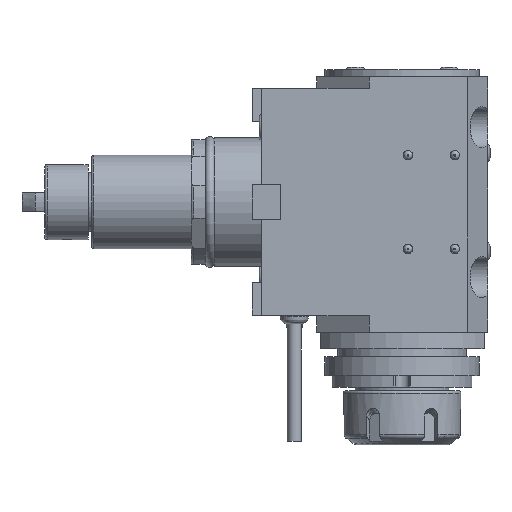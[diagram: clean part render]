
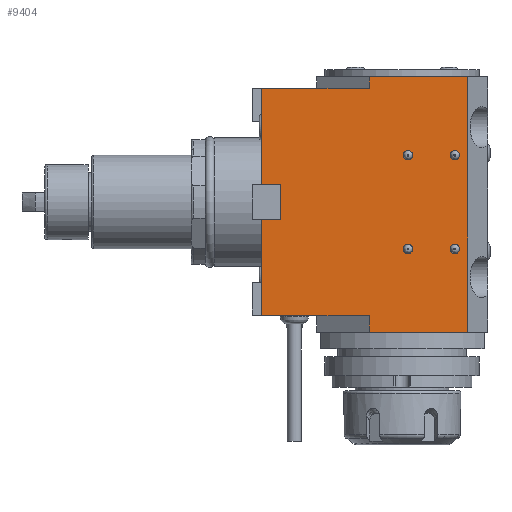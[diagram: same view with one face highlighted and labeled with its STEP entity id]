
A CAD part, left-side view. The second image highlights one B-rep face of the part: STEP entity #9404.
In plain terms, the highlighted planar face has unit normal (-1, 0, 0) as drawn and (1, 0, 0) by its records, which use the part's own axes.
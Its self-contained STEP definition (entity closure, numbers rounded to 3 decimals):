
#381=FACE_BOUND('',#3176,.T.);
#382=FACE_BOUND('',#3177,.T.);
#383=FACE_BOUND('',#3178,.T.);
#384=FACE_BOUND('',#3179,.T.);
#614=LINE('',#13920,#1484);
#619=LINE('',#13951,#1489);
#630=LINE('',#13974,#1500);
#633=LINE('',#13980,#1503);
#637=LINE('',#13989,#1507);
#638=LINE('',#13991,#1508);
#639=LINE('',#13993,#1509);
#640=LINE('',#13995,#1510);
#641=LINE('',#13996,#1511);
#642=LINE('',#13998,#1512);
#643=LINE('',#14000,#1513);
#644=LINE('',#14001,#1514);
#1484=VECTOR('',#11130,10.);
#1489=VECTOR('',#11163,10.);
#1500=VECTOR('',#11180,10.);
#1503=VECTOR('',#11185,10.);
#1507=VECTOR('',#11193,10.);
#1508=VECTOR('',#11194,10.);
#1509=VECTOR('',#11195,10.);
#1510=VECTOR('',#11196,10.);
#1511=VECTOR('',#11197,10.);
#1512=VECTOR('',#11198,10.);
#1513=VECTOR('',#11199,10.);
#1514=VECTOR('',#11200,10.);
#2263=PLANE('',#10112);
#2626=FACE_OUTER_BOUND('',#3175,.T.);
#3175=EDGE_LOOP('',(#6611,#6612,#6613,#6614,#6615,#6616,#6617,#6618,#6619,
#6620,#6621,#6622));
#3176=EDGE_LOOP('',(#6623));
#3177=EDGE_LOOP('',(#6624));
#3178=EDGE_LOOP('',(#6625));
#3179=EDGE_LOOP('',(#6626));
#3773=CIRCLE('',#10113,2.);
#3774=CIRCLE('',#10114,2.);
#3775=CIRCLE('',#10115,2.);
#3776=CIRCLE('',#10116,2.);
#4159=VERTEX_POINT('',#13917);
#4160=VERTEX_POINT('',#13919);
#4170=VERTEX_POINT('',#13945);
#4172=VERTEX_POINT('',#13949);
#4181=VERTEX_POINT('',#13972);
#4183=VERTEX_POINT('',#13979);
#4186=VERTEX_POINT('',#13988);
#4187=VERTEX_POINT('',#13990);
#4188=VERTEX_POINT('',#13992);
#4189=VERTEX_POINT('',#13994);
#4190=VERTEX_POINT('',#13997);
#4191=VERTEX_POINT('',#13999);
#4192=VERTEX_POINT('',#14002);
#4193=VERTEX_POINT('',#14004);
#4194=VERTEX_POINT('',#14006);
#4195=VERTEX_POINT('',#14008);
#5097=EDGE_CURVE('',#4160,#4159,#614,.T.);
#5111=EDGE_CURVE('',#4170,#4172,#619,.T.);
#5122=EDGE_CURVE('',#4172,#4181,#630,.T.);
#5125=EDGE_CURVE('',#4170,#4183,#633,.T.);
#5130=EDGE_CURVE('',#4181,#4186,#637,.T.);
#5131=EDGE_CURVE('',#4186,#4187,#638,.T.);
#5132=EDGE_CURVE('',#4187,#4188,#639,.T.);
#5133=EDGE_CURVE('',#4188,#4189,#640,.T.);
#5134=EDGE_CURVE('',#4189,#4160,#641,.T.);
#5135=EDGE_CURVE('',#4159,#4190,#642,.T.);
#5136=EDGE_CURVE('',#4191,#4190,#643,.T.);
#5137=EDGE_CURVE('',#4183,#4191,#644,.T.);
#5138=EDGE_CURVE('',#4192,#4192,#3773,.T.);
#5139=EDGE_CURVE('',#4193,#4193,#3774,.T.);
#5140=EDGE_CURVE('',#4194,#4194,#3775,.T.);
#5141=EDGE_CURVE('',#4195,#4195,#3776,.T.);
#6611=ORIENTED_EDGE('',*,*,#5111,.T.);
#6612=ORIENTED_EDGE('',*,*,#5122,.T.);
#6613=ORIENTED_EDGE('',*,*,#5130,.T.);
#6614=ORIENTED_EDGE('',*,*,#5131,.T.);
#6615=ORIENTED_EDGE('',*,*,#5132,.T.);
#6616=ORIENTED_EDGE('',*,*,#5133,.T.);
#6617=ORIENTED_EDGE('',*,*,#5134,.T.);
#6618=ORIENTED_EDGE('',*,*,#5097,.T.);
#6619=ORIENTED_EDGE('',*,*,#5135,.T.);
#6620=ORIENTED_EDGE('',*,*,#5136,.F.);
#6621=ORIENTED_EDGE('',*,*,#5137,.F.);
#6622=ORIENTED_EDGE('',*,*,#5125,.F.);
#6623=ORIENTED_EDGE('',*,*,#5138,.T.);
#6624=ORIENTED_EDGE('',*,*,#5139,.T.);
#6625=ORIENTED_EDGE('',*,*,#5140,.T.);
#6626=ORIENTED_EDGE('',*,*,#5141,.T.);
#9404=ADVANCED_FACE('',(#2626,#381,#382,#383,#384),#2263,.T.);
#10112=AXIS2_PLACEMENT_3D('',#13987,#11191,#11192);
#10113=AXIS2_PLACEMENT_3D('',#14003,#11201,#11202);
#10114=AXIS2_PLACEMENT_3D('',#14005,#11203,#11204);
#10115=AXIS2_PLACEMENT_3D('',#14007,#11205,#11206);
#10116=AXIS2_PLACEMENT_3D('',#14009,#11207,#11208);
#11130=DIRECTION('',(0.,-1.,0.));
#11163=DIRECTION('',(0.,0.,1.));
#11180=DIRECTION('',(0.,1.,0.));
#11185=DIRECTION('',(0.,-1.,0.));
#11191=DIRECTION('center_axis',(1.,0.,0.));
#11192=DIRECTION('ref_axis',(0.,1.,0.));
#11193=DIRECTION('',(0.,0.,1.));
#11194=DIRECTION('',(0.,-1.,0.));
#11195=DIRECTION('',(0.,0.,1.));
#11196=DIRECTION('',(0.,1.,0.));
#11197=DIRECTION('',(0.,0.,1.));
#11198=DIRECTION('',(0.,0.,1.));
#11199=DIRECTION('',(0.,1.,0.));
#11200=DIRECTION('',(0.,0.,1.));
#11201=DIRECTION('center_axis',(-1.,0.,0.));
#11202=DIRECTION('ref_axis',(0.,0.,-1.));
#11203=DIRECTION('center_axis',(-1.,0.,0.));
#11204=DIRECTION('ref_axis',(0.,0.,-1.));
#11205=DIRECTION('center_axis',(-1.,0.,0.));
#11206=DIRECTION('ref_axis',(0.,0.,-1.));
#11207=DIRECTION('center_axis',(-1.,0.,0.));
#11208=DIRECTION('ref_axis',(0.,0.,-1.));
#13917=CARTESIAN_POINT('',(42.5,-2.,47.5));
#13919=CARTESIAN_POINT('',(42.5,44.,47.5));
#13920=CARTESIAN_POINT('',(42.5,-11.5,47.5));
#13945=CARTESIAN_POINT('',(42.5,-2.,-54.5));
#13949=CARTESIAN_POINT('',(42.5,-2.,-49.5));
#13951=CARTESIAN_POINT('',(42.5,-2.,-27.25));
#13972=CARTESIAN_POINT('',(42.5,44.,-49.5));
#13974=CARTESIAN_POINT('',(42.5,-11.5,-49.5));
#13979=CARTESIAN_POINT('',(42.5,-44.,-54.5));
#13980=CARTESIAN_POINT('',(42.5,-44.,-54.5));
#13987=CARTESIAN_POINT('Origin',(42.5,-44.,0.));
#13988=CARTESIAN_POINT('',(42.5,44.,-8.5));
#13989=CARTESIAN_POINT('',(42.5,44.,0.));
#13990=CARTESIAN_POINT('',(42.5,36.,-8.5));
#13991=CARTESIAN_POINT('',(42.5,0.,-8.5));
#13992=CARTESIAN_POINT('',(42.5,36.,6.5));
#13993=CARTESIAN_POINT('',(42.5,36.,-1.75));
#13994=CARTESIAN_POINT('',(42.5,44.,6.5));
#13995=CARTESIAN_POINT('',(42.5,0.,6.5));
#13996=CARTESIAN_POINT('',(42.5,44.,0.));
#13997=CARTESIAN_POINT('',(42.5,-2.,54.5));
#13998=CARTESIAN_POINT('',(42.5,-2.,27.25));
#13999=CARTESIAN_POINT('',(42.5,-44.,54.5));
#14000=CARTESIAN_POINT('',(42.5,-44.,54.5));
#14001=CARTESIAN_POINT('',(42.5,-44.,0.));
#14002=CARTESIAN_POINT('',(42.5,-18.5,21.));
#14003=CARTESIAN_POINT('Origin',(42.5,-18.5,19.));
#14004=CARTESIAN_POINT('',(42.5,-38.5,-19.));
#14005=CARTESIAN_POINT('Origin',(42.5,-38.5,-21.));
#14006=CARTESIAN_POINT('',(42.5,-18.5,-19.));
#14007=CARTESIAN_POINT('Origin',(42.5,-18.5,-21.));
#14008=CARTESIAN_POINT('',(42.5,-38.5,21.));
#14009=CARTESIAN_POINT('Origin',(42.5,-38.5,19.));
